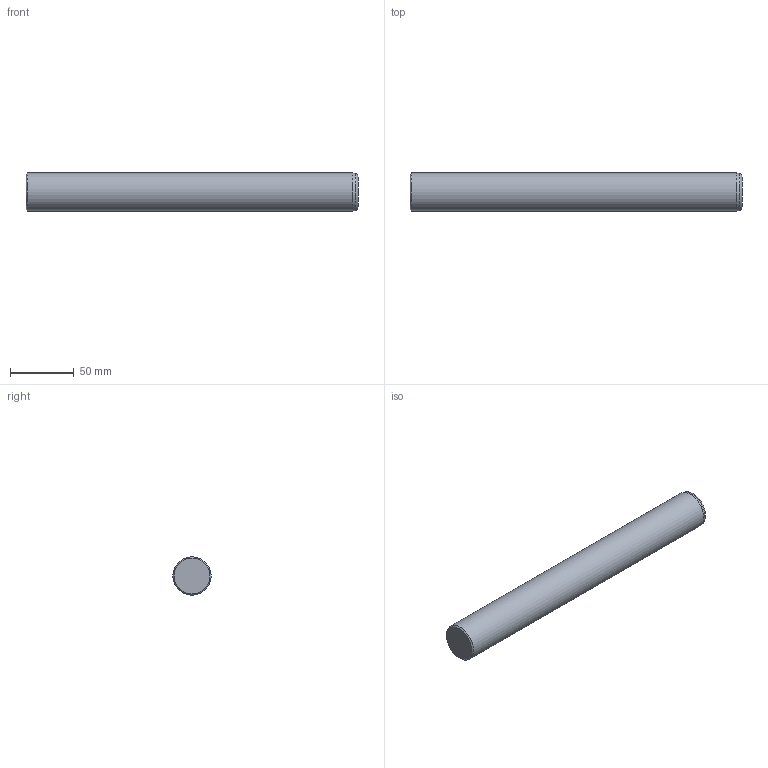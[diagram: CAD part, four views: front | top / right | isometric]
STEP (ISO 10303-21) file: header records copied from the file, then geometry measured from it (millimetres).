
FILE_DESCRIPTION(/* description */ ('Impex Ready, www.impex-ready.pl'),/* implementation_level */ '2;1');
FILE_NAME(/* name */ 'C:\Users\VIKKY\Nextcloud\SM\projekt 10 - części na stronę internetową\Pliki_3D_new\256 CIS Słup\256 CIS_STEP\CIS30260.ipt.step',/* time_stamp */ '2021-12-20T12:43:37+01:00',/* author */ ('SM'),/* organization */ (''),/* preprocessor_version */ 'ST-DEVELOPER v18.1',/* originating_system */ 'Autodesk Inventor 2021',/* authorisation */ '');
FILE_SCHEMA (('AUTOMOTIVE_DESIGN { 1 0 10303 214 3 1 1 }'));
Length unit declared in the file: millimetre
Products named in the file (1): CIS30260
Bounding box: 260 x 30 x 30 mm (x, y, z)
Volume: 183462 mm3; surface area: 25704.3 mm2
Topology: 1 solids, 1 shells, 6 faces, 12 edges, 8 vertices
Faces by surface type: cone 2, plane 2, torus 1, cylinder 1
Full cylindrical faces by diameter (mm): 30 x1
Entity records: 239 total; most frequent: DIRECTION 35, CARTESIAN_POINT 27, ORIENTED_EDGE 24, AXIS2_PLACEMENT_3D 16, EDGE_CURVE 12, CIRCLE 9, VERTEX_POINT 8, STYLED_ITEM 7
